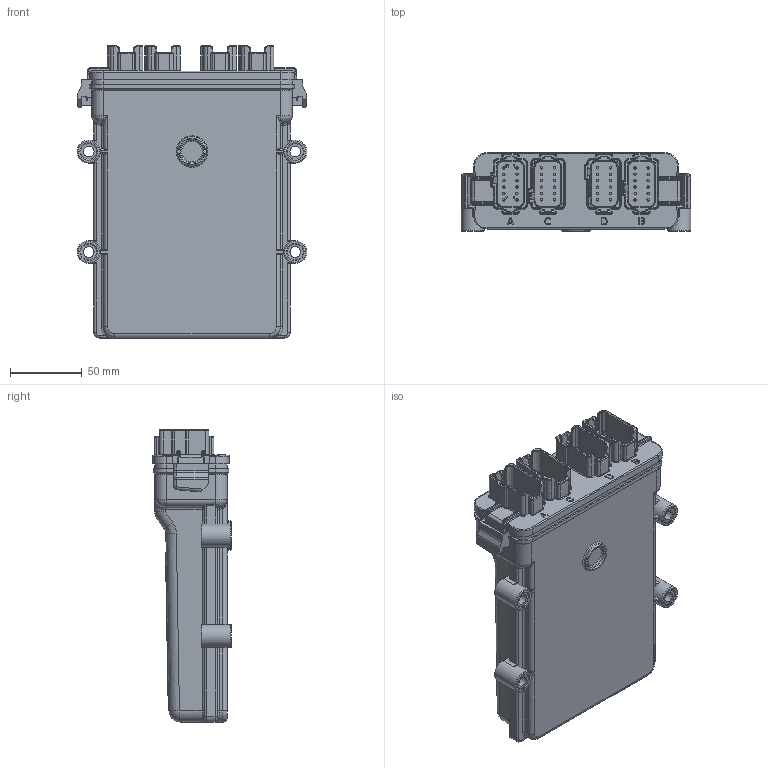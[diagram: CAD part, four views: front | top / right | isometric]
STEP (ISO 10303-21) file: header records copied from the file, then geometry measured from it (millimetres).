
FILE_DESCRIPTION(/* description */ (''),/* implementation_level */ '2;1');
FILE_NAME(/* name */ 'L:\AutoCAD_Libraries\inventor\CONNECTOR\48 pin Deutsch box\48 pin generic Deutsch box.stp',/* time_stamp */ '2018-06-20T14:04:41-04:00',/* author */ ('tfisher'),/* organization */ (''),/* preprocessor_version */ 'ST-DEVELOPER v15.2',/* originating_system */ 'Autodesk Inventor 2014',/* authorisation */ '');
FILE_SCHEMA (('AUTOMOTIVE_DESIGN { 1 0 10303 214 3 1 1 }'));
Products named in the file (1): 48 pin generic Deutsch box_Shrinkwrap_1
Bounding box: 160 x 54.64 x 203.62 mm (x, y, z)
Volume: 945366.8 mm3; surface area: 144226.8 mm2
Topology: 1 solids, 3 shells, 3911 faces, 9747 edges, 6020 vertices
Faces by surface type: plane 1727, cylinder 1131, bspline 495, torus 468, cone 48, sphere 42
Full cylindrical faces by diameter (mm): 1.587 x88, 3.175 x2, 4.064 x2, 7.493 x4, 11 x8, 16 x5, 20.4 x1
Entity records: 146903 total; most frequent: CARTESIAN_POINT 55462, ORIENTED_EDGE 19212, DIRECTION 18304, EDGE_CURVE 9606, AXIS2_PLACEMENT_3D 6391, VERTEX_POINT 6011, LINE 5522, VECTOR 5522
